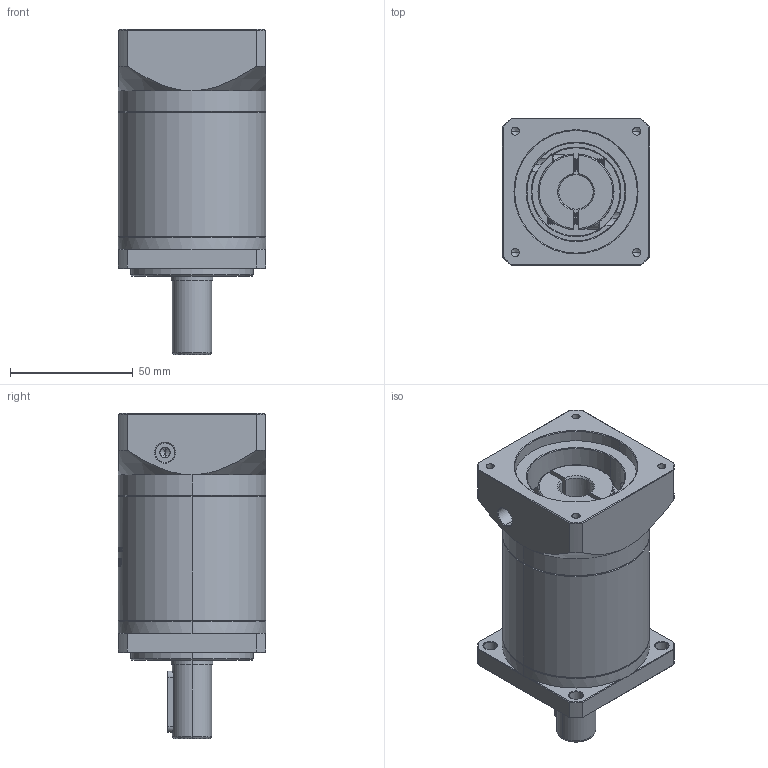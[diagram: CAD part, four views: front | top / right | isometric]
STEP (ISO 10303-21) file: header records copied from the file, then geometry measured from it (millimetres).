
FILE_DESCRIPTION (( 'STEP AP214' ), '1' );
FILE_NAME ('ZF60-D16-L2-14-50-70-M4.STEP', '2022-04-17T11:46:13', ( '' ), ( 'Microsoft' ), 'SwSTEP 2.0', 'SolidWorks 2016', '' );
FILE_SCHEMA (( 'AUTOMOTIVE_DESIGN' ));
Length unit declared in the file: millimetre
Products named in the file (1): ZF60-D16-L2-14-50-70-M4
Bounding box: 60 x 60 x 132.5 mm (x, y, z)
Volume: 271921.1 mm3; surface area: 46877.6 mm2
Topology: 6 solids, 6 shells, 1516 faces, 4074 edges, 2634 vertices
Faces by surface type: plane 736, bspline 287, cylinder 239, cone 236, torus 18
Entity records: 79618 total; most frequent: CARTESIAN_POINT 27970, ORIENTED_EDGE 8120, DIRECTION 6139, EDGE_CURVE 4060, VERTEX_POINT 2634, LINE 2123, VECTOR 2123, AXIS2_PLACEMENT_3D 2008
